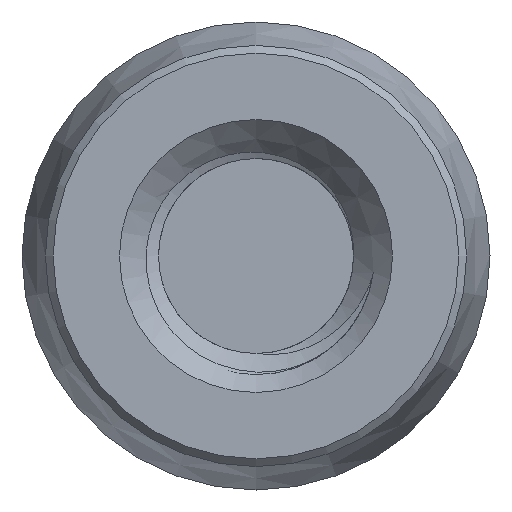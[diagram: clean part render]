
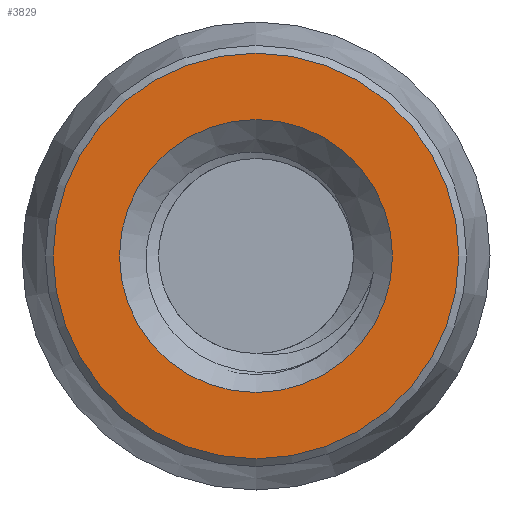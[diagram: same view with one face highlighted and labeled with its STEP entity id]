
A CAD part, front view. The second image highlights one B-rep face of the part: STEP entity #3829.
In plain terms, the highlighted planar face has unit normal (0, -1, 0).
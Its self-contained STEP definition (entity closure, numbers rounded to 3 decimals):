
#50 = EDGE_LOOP ( 'NONE', ( #2590 ) ) ;
#232 = CARTESIAN_POINT ( 'NONE',  ( 0., 0., 0. ) ) ;
#371 = CIRCLE ( 'NONE', #720, 1.75 ) ;
#456 = CARTESIAN_POINT ( 'NONE',  ( 0., 0., 1.75 ) ) ;
#617 = FACE_OUTER_BOUND ( 'NONE', #2879, .T. ) ;
#676 = PLANE ( 'NONE',  #744 ) ;
#720 = AXIS2_PLACEMENT_3D ( 'NONE', #232, #1123, #2324 ) ;
#744 = AXIS2_PLACEMENT_3D ( 'NONE', #2128, #1273, #1566 ) ;
#982 = DIRECTION ( 'NONE',  ( 0., -1., 0. ) ) ;
#1051 = CIRCLE ( 'NONE', #2377, 2.6 ) ;
#1123 = DIRECTION ( 'NONE',  ( 0., 1., 0. ) ) ;
#1230 = EDGE_CURVE ( 'NONE', #3273, #3273, #1051, .T. ) ;
#1273 = DIRECTION ( 'NONE',  ( 0., 1., 0. ) ) ;
#1566 = DIRECTION ( 'NONE',  ( 0., 0., 1. ) ) ;
#1993 = ORIENTED_EDGE ( 'NONE', *, *, #1230, .T. ) ;
#2128 = CARTESIAN_POINT ( 'NONE',  ( -2.7, 0., 0. ) ) ;
#2212 = CARTESIAN_POINT ( 'NONE',  ( 0., 0., 2.6 ) ) ;
#2324 = DIRECTION ( 'NONE',  ( 0., 0., 1. ) ) ;
#2377 = AXIS2_PLACEMENT_3D ( 'NONE', #2494, #982, #3366 ) ;
#2494 = CARTESIAN_POINT ( 'NONE',  ( 0., 0., 0. ) ) ;
#2590 = ORIENTED_EDGE ( 'NONE', *, *, #2832, .T. ) ;
#2832 = EDGE_CURVE ( 'NONE', #3858, #3858, #371, .T. ) ;
#2879 = EDGE_LOOP ( 'NONE', ( #1993 ) ) ;
#3273 = VERTEX_POINT ( 'NONE', #2212 ) ;
#3366 = DIRECTION ( 'NONE',  ( 0., 0., 1. ) ) ;
#3829 = ADVANCED_FACE ( 'NONE', ( #3868, #617 ), #676, .F. ) ;
#3858 = VERTEX_POINT ( 'NONE', #456 ) ;
#3868 = FACE_BOUND ( 'NONE', #50, .T. ) ;
